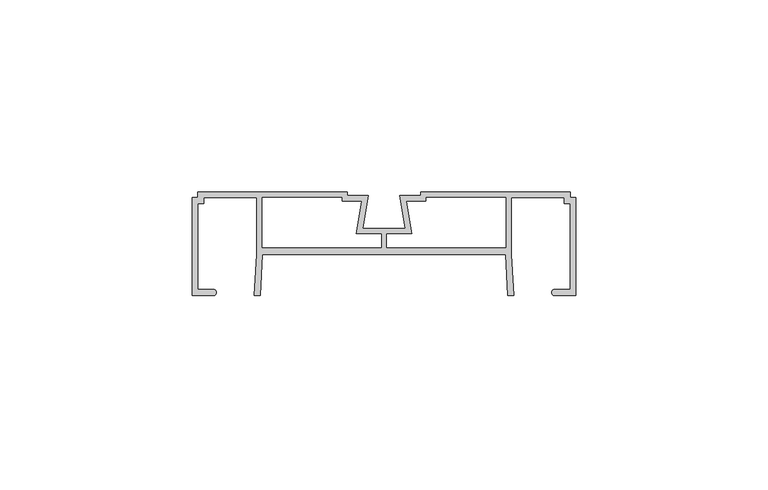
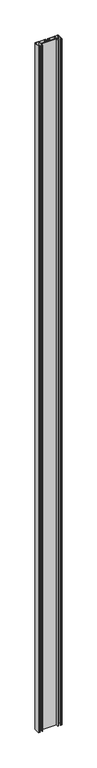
"""IFC4 building model written with IfcOpenShell, lengths in millimetres: proxy geometry, Connection-Teknion-Altos-Three_Way_On_Off_Module_FKM3 : 180º Connection, Off-Module."""

from ifc_helpers import new_model, si_unit, point, frame_2d, origin, origin_with_axes, place, context, project, spatial, polyline, circle_curve, trimmed, segment, composite_curve, outline, extrude, source, transform, mapped, element, save


def specialty_equipment_8b8a6108(model_context):
    return source(origin(), model_context, "Body", "SweptSolid", [
        extrude(outline(composite_curve([segment(polyline([(-49.9999982, -27.0274064), (-49.9999982, -1.5239996), (-48.4759983, -1.5239996), (-48.4759983, 0.0), (-9.5249993, 0.0), (-9.5249993, -0.9689157), (-4.0639995, -0.9689157), (-5.5726679, -9.5249994), (5.5726679, -9.5249994), (4.0639995, -0.9689157), (9.5249993, -0.9689157), (9.5249993, 0.0), (48.4759983, 0.0), (48.4759983, -1.5239996), (49.9999982, -1.5239996), (49.9999982, -27.0274064), (44.4119984, -27.0274064)]), True, "CONTINUOUS"), segment(trimmed(circle_curve(frame_2d((44.4119984, -26.2654064)), 0.762), [point((44.4119984, -27.0274064))], [point((44.4119984, -25.5034065))], False, "CARTESIAN"), True, "CONTINUOUS"), segment(polyline([(44.4119984, -25.5034065), (48.4759983, -25.5034065), (48.4759983, -3.0479996), (46.9352975, -3.0479996), (46.9352975, -1.5239996), (33.1856208, -1.5239996), (33.1856208, -16.3375625), (33.7444259, -27.000199), (32.2225146, -27.079959), (31.6610987, -16.3675066), (-31.6610987, -16.3675066), (-32.2225146, -27.079959), (-33.7444259, -27.000199), (-33.1856208, -16.3375625), (-33.1856208, -1.5239996), (-46.9352975, -1.5239996), (-46.9352975, -3.0479996), (-48.4759983, -3.0479996), (-48.4759983, -25.5034065), (-44.4119984, -25.5034065)]), True, "CONTINUOUS"), segment(trimmed(circle_curve(frame_2d((-44.4119984, -26.2654064)), 0.762), [point((-44.4119984, -25.5034065))], [point((-44.4119984, -27.0274064))], False, "CARTESIAN"), True, "CONTINUOUS"), segment(polyline([(-44.4119984, -27.0274064), (-49.9999982, -27.0274064)]), True, "CONTINUOUS")], self_intersect=False), holes=[polyline([(-0.7619996, -11.0489994), (-7.3889003, -11.0489994), (-5.8802319, -2.4929156), (-11.0489993, -2.4929156), (-11.0489993, -1.5239996), (-31.6610987, -1.5239996), (-31.6610987, -14.4625067), (-0.7619996, -14.4625067), (-0.7619996, -11.0489994)]), polyline([(0.7619996, -11.0489994), (0.7619996, -14.4625067), (31.6610987, -14.4625067), (31.6610987, -1.5239996), (11.0489993, -1.5239996), (11.0489993, -2.4929156), (5.8802319, -2.4929156), (7.3889003, -11.0489994), (0.7619996, -11.0489994)])]), origin_with_axes(), (0.0, 0.0, 1.0), 3048.0),
    ])


if __name__ == "__main__":
    model = new_model("IFC4")
    model_context = context("Model", 3, world=origin())
    ifc_project = project(units=[si_unit("LENGTHUNIT", "METRE", prefix="MILLI")], contexts=[model_context])
    site = spatial("IfcSite", under=ifc_project)
    building = spatial("IfcBuilding", under=site)
    placement = place(None, origin())
    specialty_equipment_shape = specialty_equipment_8b8a6108(model_context)
    element("IfcBuildingElementProxy", 1, Name="Connection-Teknion-Altos-Three_Way_On_Off_Module_FKM3 : 180º Connection, Off-Module", ObjectType="Connection-Teknion-Altos-Three_Way_On_Off_Module_FKM3 : 180º Connection, Off-Module", at=placement, inside=building, context=model_context, shape_type="MappedRepresentation", body=[
        mapped(specialty_equipment_shape, transform((0.0, 0.0, 0.0), x_axis=(1.0, 0.0, 0.0), y_axis=(0.0, 1.0, 0.0), z_axis=(0.0, 0.0, 1.0))),
    ])
    save(model, "model.ifc")
